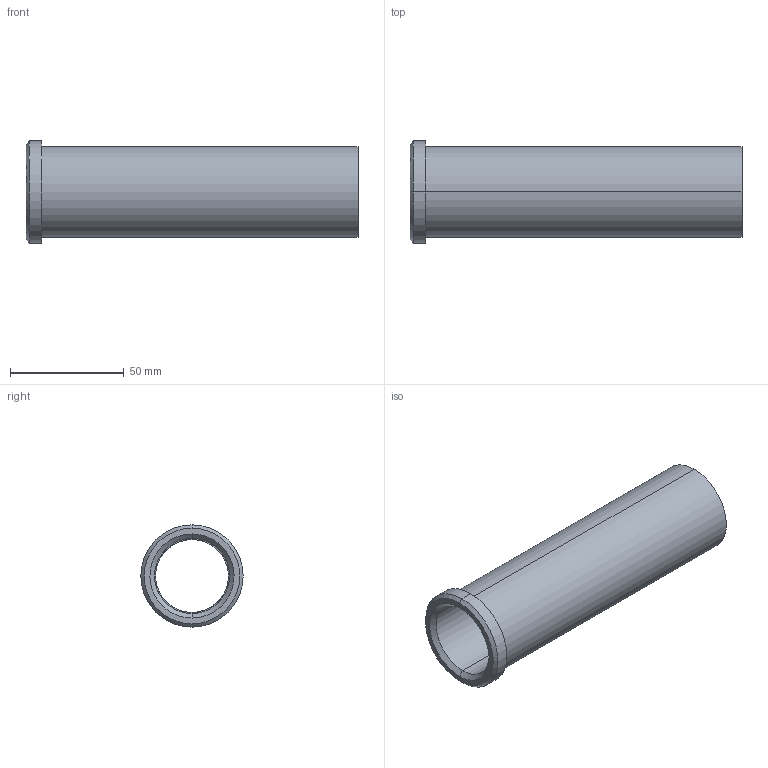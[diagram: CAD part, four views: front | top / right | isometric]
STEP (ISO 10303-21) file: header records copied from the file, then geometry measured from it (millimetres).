
FILE_DESCRIPTION(('CATIA V5 STEP Exchange'),'2;1');
FILE_NAME('C:\Users\Utente\Desktop\IO LAVORO\3D X SITO CF\X SITO\PLASTICA\353\353-32X146.stp','2021-05-12T18:59:35+00:00',('none'),('none'),'CATIA Version 5 Release 20 GA (IN-10)','CATIA V5 STEP AP203','none');
FILE_SCHEMA(('CONFIG_CONTROL_DESIGN'));
Length unit declared in the file: millimetre
Products named in the file (1): 353-32X146
Bounding box: 146 x 45 x 45 mm (x, y, z)
Volume: 63739.3 mm3; surface area: 34636.4 mm2
Topology: 1 solids, 1 shells, 18 faces, 58 edges, 44 vertices
Faces by surface type: cylinder 8, plane 4, cone 4, torus 2
Entity records: 840 total; most frequent: CARTESIAN_POINT 289, ORIENTED_EDGE 116, DIRECTION 82, EDGE_CURVE 58, AXIS2_PLACEMENT_3D 53, VERTEX_POINT 44, CIRCLE 34, EDGE_LOOP 22
